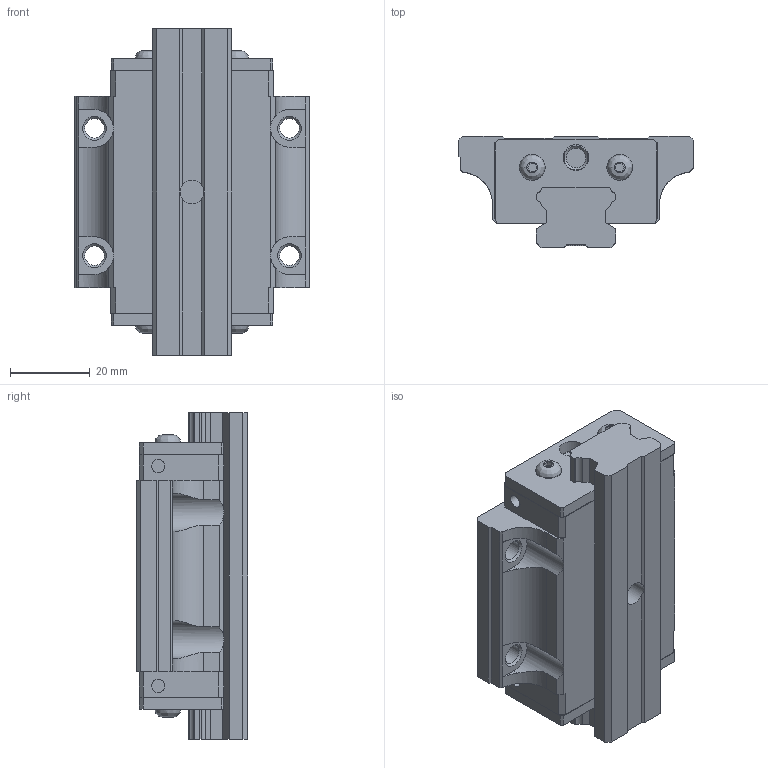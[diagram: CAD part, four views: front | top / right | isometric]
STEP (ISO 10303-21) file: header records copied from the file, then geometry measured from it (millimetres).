
FILE_DESCRIPTION( ( 'STEP AP214' ), '1' );
FILE_NAME( 'C:/Users/mimi4/OneDrive/Desktop/BSQ賅筐葭/MCS/MCS20F.stp', '2019-10-01T08:00:15', ( ' ' ), ( ' ' ), 'XStep 1.0', 'VISICAD', ' ' );
FILE_SCHEMA( ( 'automotive_design' ) );
Length unit declared in the file: metre
Products named in the file (4): 1; 2; 3; 4
Bounding box: 59 x 28 x 82 mm (x, y, z)
Volume: 76565.9 mm3; surface area: 24251.2 mm2
Topology: 4 solids, 4 shells, 260 faces, 701 edges, 467 vertices
Faces by surface type: plane 198, cylinder 48, cone 10, bspline 4
Full cylindrical faces by diameter (mm): 3.3 x4, 4.917 x6, 6 x1, 6.5 x10, 9.5 x1
Entity records: 10158 total; most frequent: CARTESIAN_POINT 1596, ORIENTED_EDGE 1302, DIRECTION 1284, EDGE_CURVE 651, LINE 522, VECTOR 522, VERTEX_POINT 453, AXIS2_PLACEMENT_3D 381
